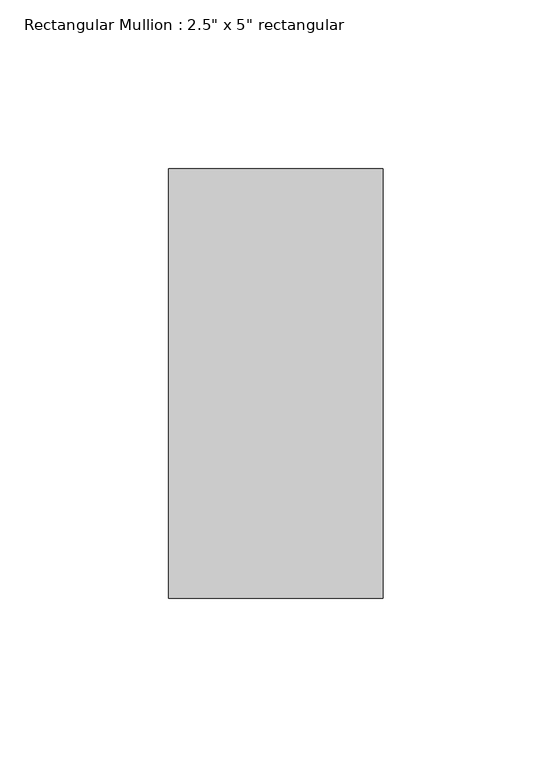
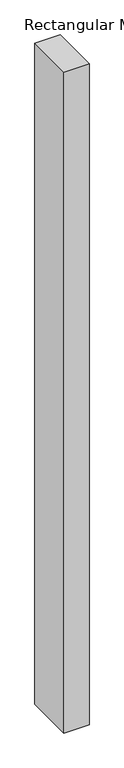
"""IFC4 building model written with IfcOpenShell, lengths in millimetres: member geometry."""

from ifc_helpers import new_model, si_unit, frame, origin, place, context, project, spatial, polyline, outline, extrude, source, transform, mapped, element, save


def member_6d5c3e5e(model_context):
    return source(origin(), model_context, "Body", "SweptSolid", [
        extrude(outline(polyline([(0.0, 63.5), (0.0, -63.5), (-63.5, -63.5), (-63.5, 63.5), (0.0, 63.5)])), frame((0.0, 0.0, -1765.3), z_axis=(0.0, 0.0, 1.0), x_axis=(1.0, 0.0, 0.0)), (0.0, 0.0, 1.0), 1765.3),
    ])


if __name__ == "__main__":
    model = new_model("IFC4")
    model_context = context("Model", 3, world=origin())
    ifc_project = project(units=[si_unit("LENGTHUNIT", "METRE", prefix="MILLI")], contexts=[model_context])
    site = spatial("IfcSite", under=ifc_project)
    building = spatial("IfcBuilding", under=site)
    placement = place(None, origin())
    member_shape = member_6d5c3e5e(model_context)
    element("IfcMember", 1, ObjectType="Rectangular Mullion : 2.5\" x 5\" rectangular", at=placement, inside=building, context=model_context, shape_type="MappedRepresentation", body=[
        mapped(member_shape, transform((0.0, 0.0, 0.0), x_axis=(1.0, 0.0, 0.0), y_axis=(0.0, 1.0, 0.0), z_axis=(0.0, 0.0, 1.0))),
    ])
    save(model, "model.ifc")
